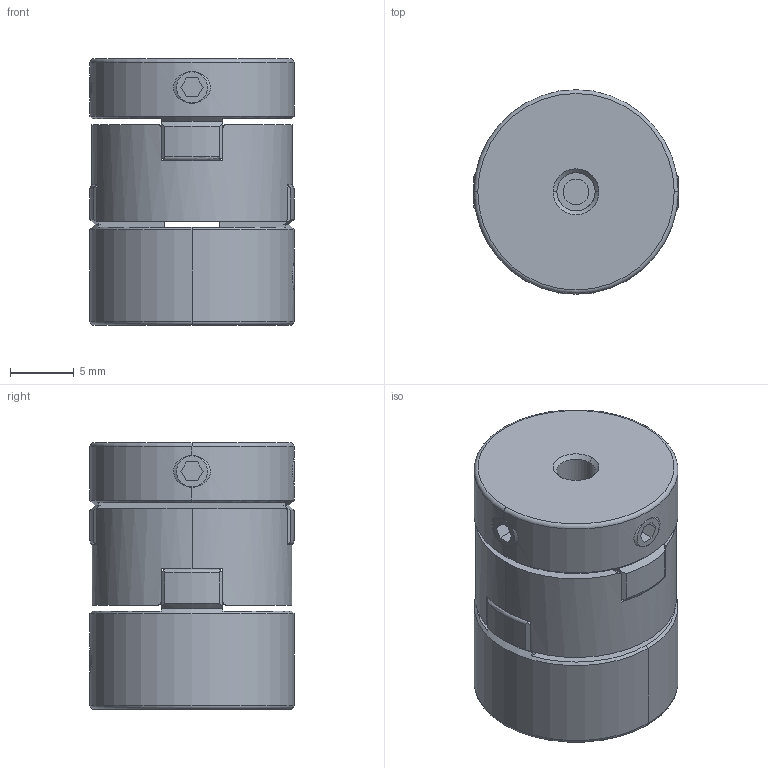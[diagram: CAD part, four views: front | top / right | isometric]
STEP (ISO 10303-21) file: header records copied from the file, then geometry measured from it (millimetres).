
FILE_DESCRIPTION (( 'STEP AP203' ), '1' );
FILE_NAME ('SOH-16S-3X6_203.STEP', '2013-01-23T06:55:16', ( '' ), ( '' ), 'SwSTEP 2.0', 'SolidWorks 2012', '' );
FILE_SCHEMA (( 'CONFIG_CONTROL_DESIGN' ));
Length unit declared in the file: millimetre
Products named in the file (1): SOH-16S-3X6_203
Bounding box: 16 x 16 x 20.9 mm (x, y, z)
Volume: 3509.8 mm3; surface area: 2491.5 mm2
Topology: 1 solids, 1 shells, 166 faces, 471 edges, 301 vertices
Faces by surface type: plane 75, cylinder 51, cone 20, torus 12, sphere 8
Entity records: 5915 total; most frequent: CARTESIAN_POINT 1566, ORIENTED_EDGE 942, DIRECTION 849, EDGE_CURVE 471, AXIS2_PLACEMENT_3D 306, VERTEX_POINT 301, VECTOR 237, LINE 237
